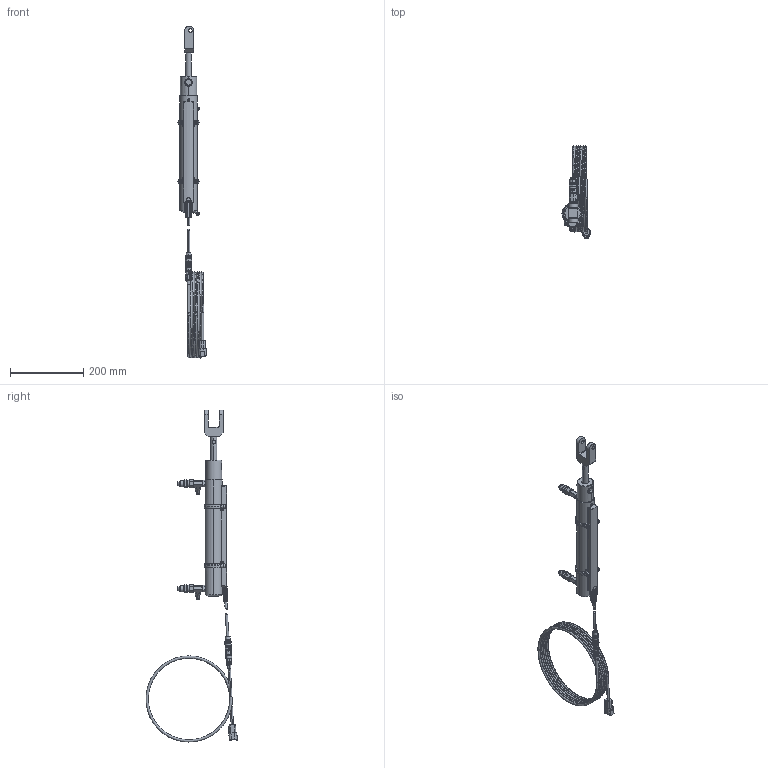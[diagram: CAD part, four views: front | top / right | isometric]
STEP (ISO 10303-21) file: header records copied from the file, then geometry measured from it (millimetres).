
FILE_DESCRIPTION((''),'2;1');
FILE_NAME('NE1302-00-1A_ASM','2017-02-14T',('TM001563'),('YANMAR CO., LTD.'),'PRO/ENGINEER BY PARAMETRIC TECHNOLOGY CORPORATION, 2015360','PRO/ENGINEER BY PARAMETRIC TECHNOLOGY CORPORATION, 2015360','');
FILE_SCHEMA(('CONFIG_CONTROL_DESIGN'));
Products named in the file (1): NE1302-00-1A_ASM
Bounding box: 76.58 x 251.18 x 906.53 mm (x, y, z)
Volume: 987782.1 mm3; surface area: 242947.1 mm2
Topology: 9 solids, 30 shells, 2929 faces, 7185 edges, 4334 vertices
Faces by surface type: cylinder 1036, plane 720, bspline 582, cone 397, torus 150, sphere 42, extrusion 2
Entity records: 139492 total; most frequent: CARTESIAN_POINT 76453, ORIENTED_EDGE 14258, DIRECTION 11550, EDGE_CURVE 7129, AXIS2_PLACEMENT_3D 4481, VERTEX_POINT 4333, EDGE_LOOP 3060, FACE_OUTER_BOUND 2929
